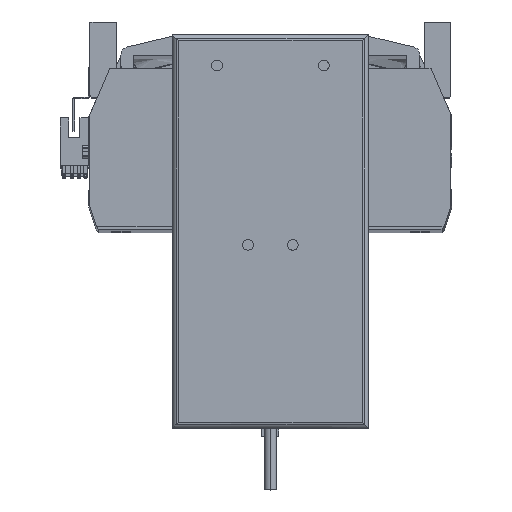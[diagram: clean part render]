
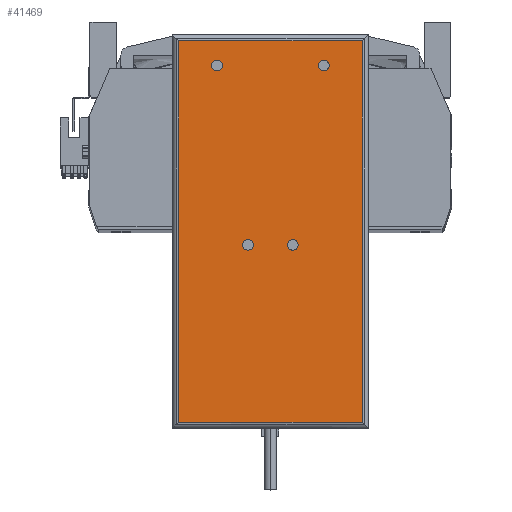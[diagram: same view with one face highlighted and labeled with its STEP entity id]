
A CAD part, top view. The second image highlights one B-rep face of the part: STEP entity #41469.
In plain terms, the highlighted planar face has unit normal (0, 0, 1) as drawn and (0, 0, -1) by its records, which use the part's own axes.
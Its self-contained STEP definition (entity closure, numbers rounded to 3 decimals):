
#57 = AXIS2_PLACEMENT_3D ( 'NONE', #35347, #1349, #39268 ) ;
#223 = CIRCLE ( 'NONE', #9704, 2.5 ) ;
#1349 = DIRECTION ( 'NONE',  ( 0., 0., -1. ) ) ;
#2048 = CARTESIAN_POINT ( 'NONE',  ( -8., -6.25, 0. ) ) ;
#2374 = EDGE_LOOP ( 'NONE', ( #22289, #11285 ) ) ;
#2772 = FACE_BOUND ( 'NONE', #47248, .T. ) ;
#2855 = VERTEX_POINT ( 'NONE', #48867 ) ;
#3090 = DIRECTION ( 'NONE',  ( 1., 0., 0. ) ) ;
#3099 = DIRECTION ( 'NONE',  ( -1., 0., 0. ) ) ;
#3942 = EDGE_CURVE ( 'NONE', #36520, #7003, #17238, .T. ) ;
#4044 = DIRECTION ( 'NONE',  ( -1., 0., 0. ) ) ;
#4371 = PLANE ( 'NONE',  #12394 ) ;
#4583 = EDGE_CURVE ( 'NONE', #48596, #35156, #9515, .T. ) ;
#4761 = VECTOR ( 'NONE', #3090, 1000. ) ;
#4829 = EDGE_CURVE ( 'NONE', #2855, #29094, #35005, .T. ) ;
#4892 = CARTESIAN_POINT ( 'NONE',  ( 25., 77.75, 0. ) ) ;
#5213 = DIRECTION ( 'NONE',  ( -1., 0., 0. ) ) ;
#5430 = CARTESIAN_POINT ( 'NONE',  ( -43., -89.25, 0. ) ) ;
#5848 = DIRECTION ( 'NONE',  ( -1., 0., 0. ) ) ;
#6231 = CARTESIAN_POINT ( 'NONE',  ( 43., -92.25, 0. ) ) ;
#7003 = VERTEX_POINT ( 'NONE', #5430 ) ;
#7109 = CIRCLE ( 'NONE', #47170, 2.5 ) ;
#7286 = EDGE_LOOP ( 'NONE', ( #41444, #45962 ) ) ;
#7533 = CIRCLE ( 'NONE', #38698, 2.5 ) ;
#7540 = ORIENTED_EDGE ( 'NONE', *, *, #25447, .F. ) ;
#7664 = CARTESIAN_POINT ( 'NONE',  ( -10.5, -6.25, 0. ) ) ;
#7672 = CARTESIAN_POINT ( 'NONE',  ( -46., -92.25, 0. ) ) ;
#7774 = CIRCLE ( 'NONE', #14124, 2.5 ) ;
#7937 = CIRCLE ( 'NONE', #15923, 2.5 ) ;
#8000 = CARTESIAN_POINT ( 'NONE',  ( 43., -89.25, 0. ) ) ;
#8225 = CARTESIAN_POINT ( 'NONE',  ( 13., -6.25, 0. ) ) ;
#8591 = DIRECTION ( 'NONE',  ( -1., 0., 0. ) ) ;
#8685 = CARTESIAN_POINT ( 'NONE',  ( -13., -6.25, 0. ) ) ;
#9515 = LINE ( 'NONE', #48262, #4761 ) ;
#9704 = AXIS2_PLACEMENT_3D ( 'NONE', #7664, #30497, #4044 ) ;
#10366 = VERTEX_POINT ( 'NONE', #16899 ) ;
#10608 = VERTEX_POINT ( 'NONE', #8225 ) ;
#11285 = ORIENTED_EDGE ( 'NONE', *, *, #15558, .F. ) ;
#11423 = DIRECTION ( 'NONE',  ( -1., 0., 0. ) ) ;
#11638 = FACE_BOUND ( 'NONE', #7286, .T. ) ;
#12394 = AXIS2_PLACEMENT_3D ( 'NONE', #7672, #42254, #23053 ) ;
#12628 = DIRECTION ( 'NONE',  ( 0., 0., -1. ) ) ;
#13256 = CARTESIAN_POINT ( 'NONE',  ( -43., -92.25, 0. ) ) ;
#13646 = ORIENTED_EDGE ( 'NONE', *, *, #28278, .F. ) ;
#13840 = CARTESIAN_POINT ( 'NONE',  ( -10.5, -6.25, 0. ) ) ;
#14124 = AXIS2_PLACEMENT_3D ( 'NONE', #43789, #32096, #17111 ) ;
#14294 = CARTESIAN_POINT ( 'NONE',  ( -46., -89.25, 0. ) ) ;
#15558 = EDGE_CURVE ( 'NONE', #21792, #46761, #7109, .T. ) ;
#15923 = AXIS2_PLACEMENT_3D ( 'NONE', #27109, #34789, #8591 ) ;
#16899 = CARTESIAN_POINT ( 'NONE',  ( -27.5, 77.75, 0. ) ) ;
#17111 = DIRECTION ( 'NONE',  ( -1., 0., 0. ) ) ;
#17238 = LINE ( 'NONE', #14294, #27896 ) ;
#17496 = DIRECTION ( 'NONE',  ( -1., 0., 0. ) ) ;
#19318 = EDGE_CURVE ( 'NONE', #29094, #2855, #20323, .T. ) ;
#20323 = CIRCLE ( 'NONE', #38407, 2.5 ) ;
#21393 = CARTESIAN_POINT ( 'NONE',  ( -43., 89.25, 0. ) ) ;
#21792 = VERTEX_POINT ( 'NONE', #2048 ) ;
#21911 = ORIENTED_EDGE ( 'NONE', *, *, #4583, .T. ) ;
#22289 = ORIENTED_EDGE ( 'NONE', *, *, #44584, .F. ) ;
#23053 = DIRECTION ( 'NONE',  ( 1., 0., 0. ) ) ;
#24712 = DIRECTION ( 'NONE',  ( 0., 1., 0. ) ) ;
#25144 = LINE ( 'NONE', #13256, #46416 ) ;
#25366 = CARTESIAN_POINT ( 'NONE',  ( 8., -6.25, 0. ) ) ;
#25447 = EDGE_CURVE ( 'NONE', #45685, #10608, #7774, .T. ) ;
#27109 = CARTESIAN_POINT ( 'NONE',  ( 10.5, -6.25, 0. ) ) ;
#27896 = VECTOR ( 'NONE', #3099, 1000. ) ;
#28205 = FACE_OUTER_BOUND ( 'NONE', #47612, .T. ) ;
#28278 = EDGE_CURVE ( 'NONE', #38752, #10366, #7533, .T. ) ;
#28492 = DIRECTION ( 'NONE',  ( 0., 0., -1. ) ) ;
#29094 = VERTEX_POINT ( 'NONE', #35989 ) ;
#30497 = DIRECTION ( 'NONE',  ( 0., 0., -1. ) ) ;
#31450 = CARTESIAN_POINT ( 'NONE',  ( -22.5, 77.75, 0. ) ) ;
#31879 = EDGE_CURVE ( 'NONE', #10608, #45685, #7937, .T. ) ;
#31953 = ORIENTED_EDGE ( 'NONE', *, *, #44151, .T. ) ;
#32096 = DIRECTION ( 'NONE',  ( 0., 0., -1. ) ) ;
#32107 = EDGE_CURVE ( 'NONE', #35156, #36520, #43473, .T. ) ;
#32524 = CARTESIAN_POINT ( 'NONE',  ( 25., 77.75, 0. ) ) ;
#32599 = DIRECTION ( 'NONE',  ( 0., -1., 0. ) ) ;
#32858 = CIRCLE ( 'NONE', #57, 2.5 ) ;
#32912 = EDGE_CURVE ( 'NONE', #10366, #38752, #32858, .T. ) ;
#33150 = ORIENTED_EDGE ( 'NONE', *, *, #32912, .F. ) ;
#33829 = ORIENTED_EDGE ( 'NONE', *, *, #32107, .T. ) ;
#34102 = AXIS2_PLACEMENT_3D ( 'NONE', #4892, #12628, #5213 ) ;
#34384 = ORIENTED_EDGE ( 'NONE', *, *, #31879, .F. ) ;
#34789 = DIRECTION ( 'NONE',  ( 0., 0., -1. ) ) ;
#35005 = CIRCLE ( 'NONE', #34102, 2.5 ) ;
#35156 = VERTEX_POINT ( 'NONE', #43750 ) ;
#35347 = CARTESIAN_POINT ( 'NONE',  ( -25., 77.75, 0. ) ) ;
#35989 = CARTESIAN_POINT ( 'NONE',  ( 27.5, 77.75, 0. ) ) ;
#36520 = VERTEX_POINT ( 'NONE', #8000 ) ;
#38407 = AXIS2_PLACEMENT_3D ( 'NONE', #32524, #28492, #5848 ) ;
#38698 = AXIS2_PLACEMENT_3D ( 'NONE', #45359, #45187, #11423 ) ;
#38752 = VERTEX_POINT ( 'NONE', #31450 ) ;
#39268 = DIRECTION ( 'NONE',  ( -1., 0., 0. ) ) ;
#40360 = DIRECTION ( 'NONE',  ( 0., 0., -1. ) ) ;
#41444 = ORIENTED_EDGE ( 'NONE', *, *, #4829, .F. ) ;
#41469 = ADVANCED_FACE ( 'NONE', ( #28205, #48349, #43622, #2772, #11638 ), #4371, .F. ) ;
#42254 = DIRECTION ( 'NONE',  ( 0., 0., 1. ) ) ;
#43473 = LINE ( 'NONE', #6231, #48754 ) ;
#43622 = FACE_BOUND ( 'NONE', #44671, .T. ) ;
#43750 = CARTESIAN_POINT ( 'NONE',  ( 43., 89.25, 0. ) ) ;
#43789 = CARTESIAN_POINT ( 'NONE',  ( 10.5, -6.25, 0. ) ) ;
#44151 = EDGE_CURVE ( 'NONE', #7003, #48596, #25144, .T. ) ;
#44584 = EDGE_CURVE ( 'NONE', #46761, #21792, #223, .T. ) ;
#44671 = EDGE_LOOP ( 'NONE', ( #7540, #34384 ) ) ;
#45187 = DIRECTION ( 'NONE',  ( 0., 0., -1. ) ) ;
#45359 = CARTESIAN_POINT ( 'NONE',  ( -25., 77.75, 0. ) ) ;
#45685 = VERTEX_POINT ( 'NONE', #25366 ) ;
#45962 = ORIENTED_EDGE ( 'NONE', *, *, #19318, .F. ) ;
#46416 = VECTOR ( 'NONE', #24712, 1000. ) ;
#46761 = VERTEX_POINT ( 'NONE', #8685 ) ;
#47170 = AXIS2_PLACEMENT_3D ( 'NONE', #13840, #40360, #17496 ) ;
#47248 = EDGE_LOOP ( 'NONE', ( #33150, #13646 ) ) ;
#47612 = EDGE_LOOP ( 'NONE', ( #33829, #48080, #31953, #21911 ) ) ;
#48080 = ORIENTED_EDGE ( 'NONE', *, *, #3942, .T. ) ;
#48262 = CARTESIAN_POINT ( 'NONE',  ( -46., 89.25, 0. ) ) ;
#48349 = FACE_BOUND ( 'NONE', #2374, .T. ) ;
#48596 = VERTEX_POINT ( 'NONE', #21393 ) ;
#48754 = VECTOR ( 'NONE', #32599, 1000. ) ;
#48867 = CARTESIAN_POINT ( 'NONE',  ( 22.5, 77.75, 0. ) ) ;
